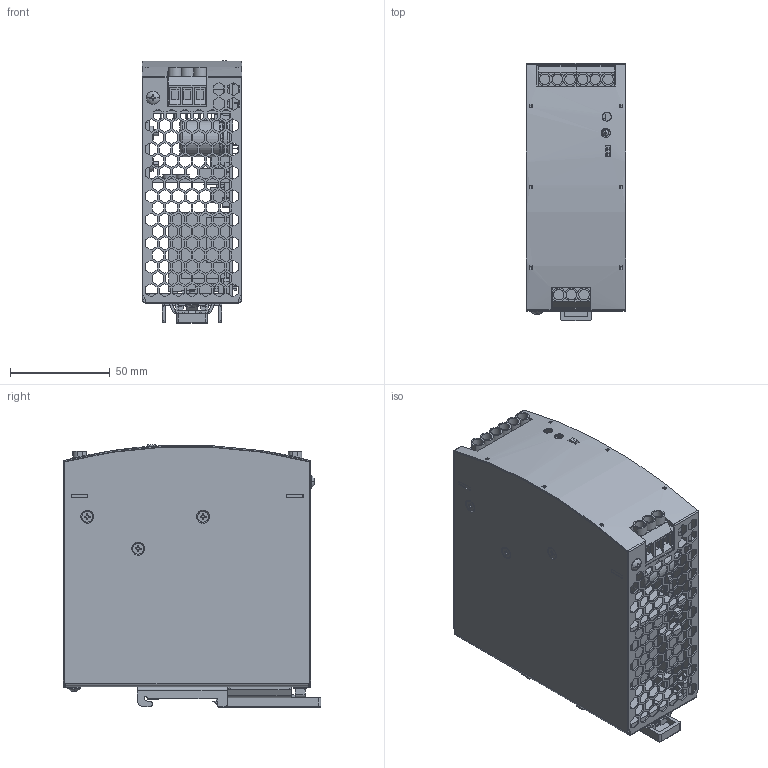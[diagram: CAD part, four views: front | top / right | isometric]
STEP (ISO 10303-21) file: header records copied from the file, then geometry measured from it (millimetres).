
FILE_DESCRIPTION((''),'2;1');
FILE_NAME('0TOP_DG-360-24','2022-08-17T15:12:12',('pd071'),(''),'CREO PARAMETRIC BY PTC INC, 2017260','CREO PARAMETRIC BY PTC INC, 2017260','');
FILE_SCHEMA(('CONFIG_CONTROL_DESIGN','SHAPE_APPEARANCE_LAYERS_GROUPS'));
Products named in the file (1): 0TOP_DG-360-24
Bounding box: 50 x 128.9 x 131.45 mm (x, y, z)
Surface area: 216246.6 mm2 (no closed solid volume)
Topology: 0 solids, 272 shells, 3628 faces, 10374 edges, 6937 vertices
Faces by surface type: plane 3033, cylinder 369, bspline 130, cone 46, torus 36, sphere 10, revolution 4
Entity records: 147709 total; most frequent: CARTESIAN_POINT 36385, ORIENTED_EDGE 18812, DIRECTION 18326, EDGE_CURVE 10372, VECTOR 8954, LINE 8954, VERTEX_POINT 6937, AXIS2_PLACEMENT_3D 4684
